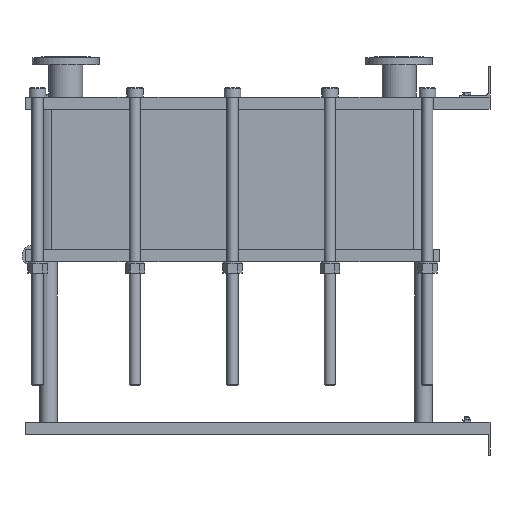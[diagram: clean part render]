
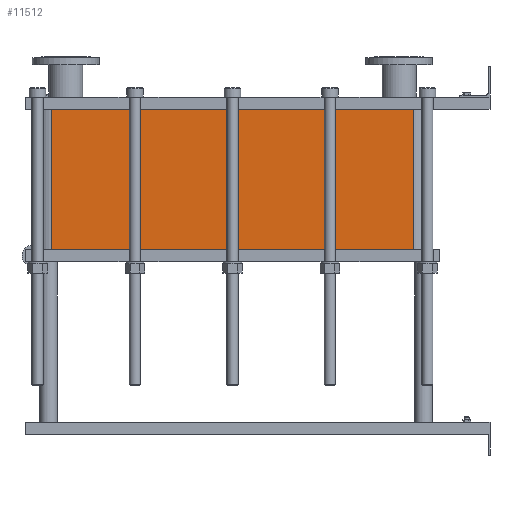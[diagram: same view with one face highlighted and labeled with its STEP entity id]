
A CAD part, left-side view. The second image highlights one B-rep face of the part: STEP entity #11512.
In plain terms, the highlighted planar face has unit normal (-1, 0, 0).
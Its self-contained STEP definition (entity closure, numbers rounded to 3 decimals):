
#1129=LINE('',#23232,#2102);
#1130=LINE('',#23236,#2103);
#1131=LINE('',#23238,#2104);
#1132=LINE('',#23239,#2105);
#2102=VECTOR('',#15887,10.);
#2103=VECTOR('',#15892,10.);
#2104=VECTOR('',#15893,10.);
#2105=VECTOR('',#15894,10.);
#3267=FACE_OUTER_BOUND('',#4093,.T.);
#4093=EDGE_LOOP('',(#10103,#10104,#10105,#10106));
#5642=VERTEX_POINT('',#23229);
#5643=VERTEX_POINT('',#23231);
#5644=VERTEX_POINT('',#23235);
#5645=VERTEX_POINT('',#23237);
#7159=EDGE_CURVE('',#5643,#5642,#1129,.T.);
#7161=EDGE_CURVE('',#5642,#5644,#1130,.T.);
#7162=EDGE_CURVE('',#5645,#5644,#1131,.T.);
#7163=EDGE_CURVE('',#5645,#5643,#1132,.T.);
#10103=ORIENTED_EDGE('',*,*,#7161,.T.);
#10104=ORIENTED_EDGE('',*,*,#7162,.F.);
#10105=ORIENTED_EDGE('',*,*,#7163,.T.);
#10106=ORIENTED_EDGE('',*,*,#7159,.T.);
#10857=PLANE('',#12751);
#11512=ADVANCED_FACE('',(#3267),#10857,.T.);
#12751=AXIS2_PLACEMENT_3D('',#23234,#15890,#15891);
#15887=DIRECTION('',(0.,0.,-1.));
#15890=DIRECTION('center_axis',(-1.,0.,0.));
#15891=DIRECTION('ref_axis',(0.,1.,0.));
#15892=DIRECTION('',(0.,-1.,0.));
#15893=DIRECTION('',(0.,0.,-1.));
#15894=DIRECTION('',(0.,1.,0.));
#23229=CARTESIAN_POINT('',(-200.,1414.,-451.95));
#23231=CARTESIAN_POINT('',(-200.,1414.,0.));
#23232=CARTESIAN_POINT('',(-200.,1414.,0.));
#23234=CARTESIAN_POINT('Origin',(-200.,248.,0.));
#23235=CARTESIAN_POINT('',(-200.,248.,-451.95));
#23236=CARTESIAN_POINT('',(-200.,539.5,-451.95));
#23237=CARTESIAN_POINT('',(-200.,248.,0.));
#23238=CARTESIAN_POINT('',(-200.,248.,0.));
#23239=CARTESIAN_POINT('',(-200.,248.,0.));
